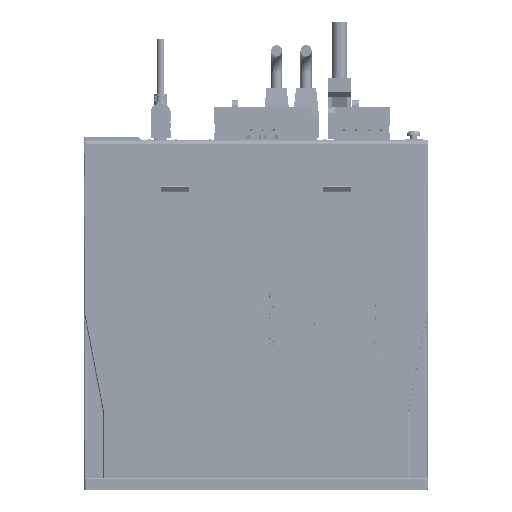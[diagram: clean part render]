
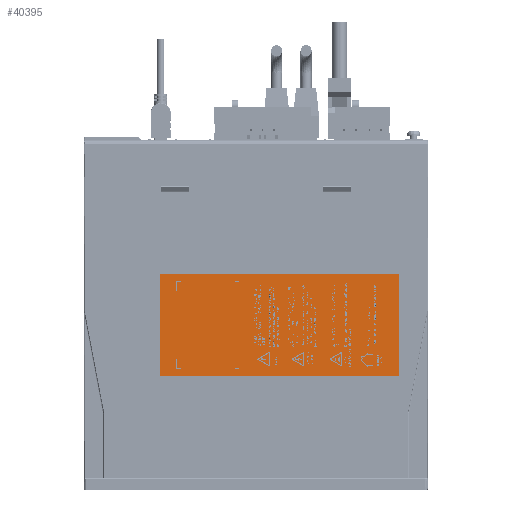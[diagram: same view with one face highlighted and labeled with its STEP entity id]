
A CAD part, left-side view. The second image highlights one B-rep face of the part: STEP entity #40395.
In plain terms, the highlighted planar face has unit normal (-1, 0, 0).
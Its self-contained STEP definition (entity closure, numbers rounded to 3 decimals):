
#2721=TRIMMED_CURVE($,#6656,(#801474),(#801475),.T.,.CARTESIAN.);
#2871=TRIMMED_CURVE($,#6806,(#804779),(#804780),.T.,.CARTESIAN.);
#6656=CIRCLE('',#434951,0.2);
#6806=CIRCLE('',#435101,0.2);
#40395=ADVANCED_FACE('',(#65332),#411261,.T.);
#65332=FACE_OUTER_BOUND('',#91851,.T.);
#91851=EDGE_LOOP('',(#205251,#205252,#205253,#205254,#205255,#205256));
#205251=ORIENTED_EDGE('',*,*,#279785,.F.);
#205252=ORIENTED_EDGE('',*,*,#281185,.T.);
#205253=ORIENTED_EDGE('',*,*,#281186,.F.);
#205254=ORIENTED_EDGE('',*,*,#281187,.F.);
#205255=ORIENTED_EDGE('',*,*,#279779,.F.);
#205256=ORIENTED_EDGE('',*,*,#279778,.T.);
#279778=EDGE_CURVE('',#388856,#388855,#2721,.T.);
#279779=EDGE_CURVE('',#388856,#388857,#342576,.T.);
#279785=EDGE_CURVE('',#388860,#388855,#342582,.T.);
#281185=EDGE_CURVE('',#388860,#388859,#2871,.T.);
#281186=EDGE_CURVE('',#388858,#388859,#343832,.T.);
#281187=EDGE_CURVE('',#388857,#388858,#343833,.T.);
#342576=B_SPLINE_CURVE_WITH_KNOTS('',1,(#801476,#801477),.UNSPECIFIED.,
 .F.,.F.,(2,2),(0.,128.8),.UNSPECIFIED.);
#342582=B_SPLINE_CURVE_WITH_KNOTS('',1,(#801488,#801489),.UNSPECIFIED.,
 .F.,.F.,(2,2),(0.,54.6),.UNSPECIFIED.);
#343832=B_SPLINE_CURVE_WITH_KNOTS('',1,(#804781,#804782),.UNSPECIFIED.,
 .F.,.F.,(2,2),(-128.8,0.),.UNSPECIFIED.);
#343833=B_SPLINE_CURVE_WITH_KNOTS('',1,(#804783,#804784),.UNSPECIFIED.,
 .F.,.F.,(2,2),(-55.,0.),.UNSPECIFIED.);
#388855=VERTEX_POINT('',#791755);
#388856=VERTEX_POINT('',#791756);
#388857=VERTEX_POINT('',#791757);
#388858=VERTEX_POINT('',#791758);
#388859=VERTEX_POINT('',#791759);
#388860=VERTEX_POINT('',#791760);
#411261=PLANE('',#434221);
#434221=AXIS2_PLACEMENT_3D('',#787128,#461859,$);
#434951=AXIS2_PLACEMENT_3D($,#801473,#463007,#463008);
#435101=AXIS2_PLACEMENT_3D($,#804778,#463307,#463308);
#461859=DIRECTION('',(-1.,0.,0.));
#463007=DIRECTION('',(-1.,0.,0.));
#463008=DIRECTION('',(0.,0.,1.));
#463307=DIRECTION('',(-1.,0.,0.));
#463308=DIRECTION('',(0.,1.,0.));
#787128=CARTESIAN_POINT('',(35.705,-416.169,-63.721));
#791755=CARTESIAN_POINT('',(35.705,-274.209,-69.481));
#791756=CARTESIAN_POINT('',(35.705,-274.409,-69.281));
#791757=CARTESIAN_POINT('',(35.705,-403.209,-69.281));
#791758=CARTESIAN_POINT('',(35.705,-403.209,-124.281));
#791759=CARTESIAN_POINT('',(35.705,-274.409,-124.281));
#791760=CARTESIAN_POINT('',(35.705,-274.209,-124.081));
#801473=CARTESIAN_POINT('',(35.705,-274.409,-69.481));
#801474=CARTESIAN_POINT('',(35.705,-274.409,-69.281));
#801475=CARTESIAN_POINT('',(35.705,-274.209,-69.481));
#801476=CARTESIAN_POINT('',(35.705,-274.409,-69.281));
#801477=CARTESIAN_POINT('',(35.705,-403.209,-69.281));
#801488=CARTESIAN_POINT('',(35.705,-274.209,-124.081));
#801489=CARTESIAN_POINT('',(35.705,-274.209,-69.481));
#804778=CARTESIAN_POINT('',(35.705,-274.409,-124.081));
#804779=CARTESIAN_POINT('',(35.705,-274.209,-124.081));
#804780=CARTESIAN_POINT('',(35.705,-274.409,-124.281));
#804781=CARTESIAN_POINT('',(35.705,-403.209,-124.281));
#804782=CARTESIAN_POINT('',(35.705,-274.409,-124.281));
#804783=CARTESIAN_POINT('',(35.705,-403.209,-69.281));
#804784=CARTESIAN_POINT('',(35.705,-403.209,-124.281));
